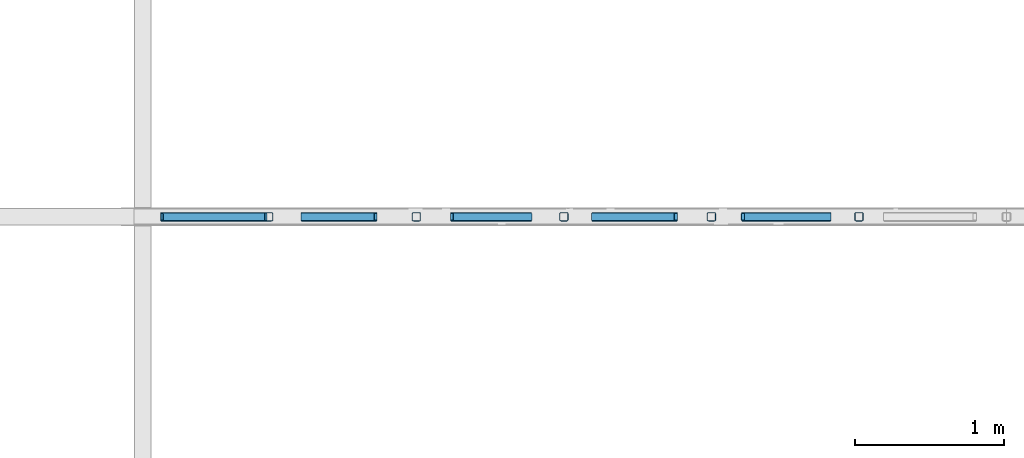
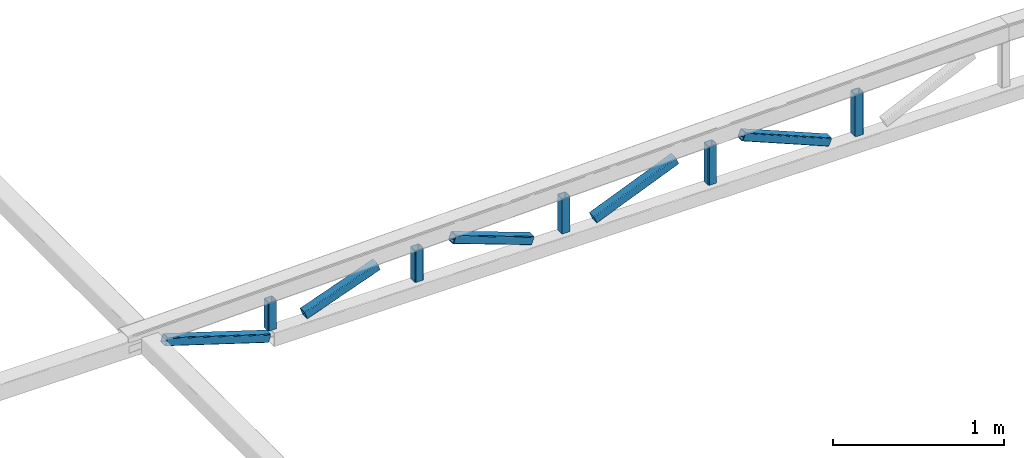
# One storey, part 6 of 10: 10 members, 1 element without a shape of its own.
"""IFC2X3 building model written with IfcOpenShell, lengths in millimetres."""

from ifc_helpers import new_model, entity, si_unit, converted_unit, derived_unit, direction, frame, frame_2d, origin, place, context, subcontext, project, spatial, polyline, circle_curve, parameter, trimmed, segment, composite_curve, outline, extrude, source, transform, mapped, type_object, type_shapes, element, aggregate, save


model = new_model("IFC2X3")

# Units and contexts
model_context = context("Model", 3, precision=0.01, world=origin(), true_north=direction((6.12303176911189e-17, 1.0)))
body_context = subcontext(model_context, "Body", "Model", "MODEL_VIEW")
ifc_project = project(units=[si_unit("LENGTHUNIT", "METRE", prefix="MILLI"), si_unit("AREAUNIT", "SQUARE_METRE"), si_unit("VOLUMEUNIT", "CUBIC_METRE"), converted_unit("PLANEANGLEUNIT", "DEGREE", entity("IfcRatioMeasure", 0.0174532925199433), si_unit("PLANEANGLEUNIT", "RADIAN"), dimensions=[0, 0, 0, 0, 0, 0, 0]), si_unit("MASSUNIT", "GRAM", prefix="KILO"), derived_unit("MASSDENSITYUNIT", [(si_unit("MASSUNIT", "GRAM", prefix="KILO"), 1), (si_unit("LENGTHUNIT", "METRE"), -3)]), si_unit("TIMEUNIT", "SECOND"), si_unit("FREQUENCYUNIT", "HERTZ"), si_unit("THERMODYNAMICTEMPERATUREUNIT", "DEGREE_CELSIUS"), derived_unit("THERMALTRANSMITTANCEUNIT", [(si_unit("MASSUNIT", "GRAM", prefix="KILO"), 1), (si_unit("THERMODYNAMICTEMPERATUREUNIT", "KELVIN"), -1), (si_unit("TIMEUNIT", "SECOND"), -3)]), derived_unit("VOLUMETRICFLOWRATEUNIT", [(si_unit("LENGTHUNIT", "METRE"), 3), (si_unit("TIMEUNIT", "SECOND"), -1)]), si_unit("ELECTRICCURRENTUNIT", "AMPERE"), si_unit("ELECTRICVOLTAGEUNIT", "VOLT"), si_unit("POWERUNIT", "WATT"), si_unit("FORCEUNIT", "NEWTON", prefix="KILO"), si_unit("ILLUMINANCEUNIT", "LUX"), si_unit("LUMINOUSFLUXUNIT", "LUMEN"), si_unit("LUMINOUSINTENSITYUNIT", "CANDELA"), derived_unit("USERDEFINED", [(si_unit("MASSUNIT", "GRAM", prefix="KILO"), -1), (si_unit("LENGTHUNIT", "METRE"), -2), (si_unit("TIMEUNIT", "SECOND"), 3), (si_unit("LUMINOUSFLUXUNIT", "LUMEN"), 1)]), derived_unit("LINEARVELOCITYUNIT", [(si_unit("LENGTHUNIT", "METRE"), 1), (si_unit("TIMEUNIT", "SECOND"), -1)]), si_unit("PRESSUREUNIT", "PASCAL"), derived_unit("USERDEFINED", [(si_unit("LENGTHUNIT", "METRE"), -2), (si_unit("MASSUNIT", "GRAM", prefix="KILO"), 1), (si_unit("TIMEUNIT", "SECOND"), -2)])], contexts=[model_context])

# Site, building, storey
site_placement = place(None, frame((0.0, 0.0, 101000.0)))
site = spatial("IfcSite", under=ifc_project, at=site_placement, Name="Default", CompositionType="ELEMENT")
building_placement = place(site_placement, origin())
building = spatial("IfcBuilding", under=site, at=building_placement, CompositionType="ELEMENT")
storey_placement = place(building_placement, frame((0.0, 0.0, 6025.0)))
storey = spatial("IfcBuildingStorey", under=building, at=storey_placement, Name="03", CompositionType="ELEMENT", Elevation=6024.9999999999)

# Assembly, members
assembly_placement = place(storey_placement, origin())
assembly = element("IfcElementAssembly", 1, at=assembly_placement, inside=storey, Name="Gitterdrager:Standard", ObjectType="Gitterdrager:Standard", AssemblyPlace="NOTDEFINED", PredefinedType="TRUSS")
member_type_1 = type_object("IfcMemberType", Name="60x60x5", PredefinedType="BRACE")
shared_shape_1 = source(origin(), body_context, "Body", "SweptSolid", [
    extrude(outline(composite_curve([segment(trimmed(circle_curve(frame_2d((-20.0, -20.0), x_axis=(1.0, 0.0)), 10.0), [parameter(180.0)], [parameter(270.0)], True, "PARAMETER"), True, "CONTINUOUS"), segment(polyline([(-20.0, -30.0), (20.0, -30.0)]), True, "CONTINUOUS"), segment(trimmed(circle_curve(frame_2d((20.0, -20.0), x_axis=(1.0, 0.0)), 10.0), [parameter(270.0)], [parameter(5.08888749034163e-14)], True, "PARAMETER"), True, "CONTINUOUS"), segment(polyline([(30.0, -20.0), (30.0, 20.0)]), True, "CONTINUOUS"), segment(trimmed(circle_curve(frame_2d((20.0, 20.0), x_axis=(1.0, 0.0)), 10.0), [parameter(360.0)], [parameter(89.9999999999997)], True, "PARAMETER"), True, "CONTINUOUS"), segment(polyline([(20.0, 30.0), (-20.0, 30.0)]), True, "CONTINUOUS"), segment(trimmed(circle_curve(frame_2d((-20.0, 20.0), x_axis=(1.0, 0.0)), 10.0), [parameter(90.0000000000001)], [parameter(180.0)], True, "PARAMETER"), True, "CONTINUOUS"), segment(polyline([(-30.0, 20.0), (-30.0, -20.0)]), True, "CONTINUOUS")], self_intersect=False), holes=[composite_curve([segment(polyline([(20.0, -25.0), (-20.0, -25.0)]), True, "CONTINUOUS"), segment(trimmed(circle_curve(frame_2d((-20.0, -20.0), x_axis=(1.0, 0.0)), 5.0), [parameter(180.0)], [parameter(270.0)], True, "PARAMETER"), False, "CONTINUOUS"), segment(polyline([(-25.0, -20.0), (-25.0, 20.0)]), True, "CONTINUOUS"), segment(trimmed(circle_curve(frame_2d((-20.0, 20.0), x_axis=(1.0, 0.0)), 5.0), [parameter(90.0000000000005)], [parameter(180.0)], True, "PARAMETER"), False, "CONTINUOUS"), segment(polyline([(-20.0, 25.0), (20.0, 25.0)]), True, "CONTINUOUS"), segment(trimmed(circle_curve(frame_2d((20.0, 20.0), x_axis=(1.0, 0.0)), 5.0), [parameter(0.0)], [parameter(90.0000000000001)], True, "PARAMETER"), False, "CONTINUOUS"), segment(polyline([(25.0, 20.0), (25.0, -20.0)]), True, "CONTINUOUS"), segment(trimmed(circle_curve(frame_2d((20.0, -20.0), x_axis=(1.0, 0.0)), 5.0), [parameter(270.0)], [parameter(4.57999874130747e-13)], True, "PARAMETER"), False, "CONTINUOUS")], self_intersect=False)]), frame((-155.792423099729, 0.0, 0.0), z_axis=(1.0, 0.0, 0.0), x_axis=(0.0, -1.0, 0.0)), (0.0, 0.0, 1.0), 300.049419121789),
])
type_shapes(member_type_1, [shared_shape_1])
member_1_placement = place(assembly_placement, frame((16232.9311636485, 32417.9507529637, -122.531331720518), z_axis=(1.0, 0.0, 0.0), x_axis=(0.0, 0.0, 1.0)))
member_1 = element("IfcMember", 2, at=member_1_placement, type_object=member_type_1, Name="Bjelke HUP:60x60x5", ObjectType="60x60x5", context=body_context, shape_type="MappedRepresentation", body=[
    mapped(shared_shape_1, transform((0.0, 0.0, 0.0), scale=1.0)),
])
member_type_2 = type_object("IfcMemberType", Name="60x60x5", PredefinedType="BRACE")
shared_shape_2 = source(origin(), body_context, "Body", "SweptSolid", [
    extrude(outline(composite_curve([segment(trimmed(circle_curve(frame_2d((-20.0, -20.0), x_axis=(1.0, 0.0)), 10.0), [parameter(180.0)], [parameter(270.0)], True, "PARAMETER"), True, "CONTINUOUS"), segment(polyline([(-20.0, -30.0), (20.0, -30.0)]), True, "CONTINUOUS"), segment(trimmed(circle_curve(frame_2d((20.0, -20.0), x_axis=(1.0, 0.0)), 10.0), [parameter(270.0)], [parameter(5.08888749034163e-14)], True, "PARAMETER"), True, "CONTINUOUS"), segment(polyline([(30.0, -20.0), (30.0, 20.0)]), True, "CONTINUOUS"), segment(trimmed(circle_curve(frame_2d((20.0, 20.0), x_axis=(1.0, 0.0)), 10.0), [parameter(360.0)], [parameter(89.9999999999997)], True, "PARAMETER"), True, "CONTINUOUS"), segment(polyline([(20.0, 30.0), (-20.0, 30.0)]), True, "CONTINUOUS"), segment(trimmed(circle_curve(frame_2d((-20.0, 20.0), x_axis=(1.0, 0.0)), 10.0), [parameter(90.0000000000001)], [parameter(180.0)], True, "PARAMETER"), True, "CONTINUOUS"), segment(polyline([(-30.0, 20.0), (-30.0, -20.0)]), True, "CONTINUOUS")], self_intersect=False), holes=[composite_curve([segment(polyline([(20.0, -25.0), (-20.0, -25.0)]), True, "CONTINUOUS"), segment(trimmed(circle_curve(frame_2d((-20.0, -20.0), x_axis=(1.0, 0.0)), 5.0), [parameter(180.0)], [parameter(270.0)], True, "PARAMETER"), False, "CONTINUOUS"), segment(polyline([(-25.0, -20.0), (-25.0, 20.0)]), True, "CONTINUOUS"), segment(trimmed(circle_curve(frame_2d((-20.0, 20.0), x_axis=(1.0, 0.0)), 5.0), [parameter(90.0000000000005)], [parameter(180.0)], True, "PARAMETER"), False, "CONTINUOUS"), segment(polyline([(-20.0, 25.0), (20.0, 25.0)]), True, "CONTINUOUS"), segment(trimmed(circle_curve(frame_2d((20.0, 20.0), x_axis=(1.0, 0.0)), 5.0), [parameter(0.0)], [parameter(90.0000000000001)], True, "PARAMETER"), False, "CONTINUOUS"), segment(polyline([(25.0, 20.0), (25.0, -20.0)]), True, "CONTINUOUS"), segment(trimmed(circle_curve(frame_2d((20.0, -20.0), x_axis=(1.0, 0.0)), 5.0), [parameter(270.0)], [parameter(4.57999874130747e-13)], True, "PARAMETER"), False, "CONTINUOUS")], self_intersect=False)]), frame((-143.393968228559, 0.0, 0.0), z_axis=(1.0, 0.0, 0.0), x_axis=(0.0, -1.0, 0.0)), (0.0, 0.0, 1.0), 275.252509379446),
])
type_shapes(member_type_2, [shared_shape_2])
member_2_placement = place(assembly_placement, frame((15239.6002137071, 32417.9507529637, -134.929786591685), z_axis=(1.0, 0.0, 0.0), x_axis=(0.0, 0.0, 1.0)))
member_2 = element("IfcMember", 3, at=member_2_placement, type_object=member_type_2, Name="Bjelke HUP:60x60x5", ObjectType="60x60x5", context=body_context, shape_type="MappedRepresentation", body=[
    mapped(shared_shape_2, transform((0.0, 0.0, 0.0), scale=1.0)),
])
member_type_3 = type_object("IfcMemberType", Name="60x60x5", PredefinedType="BRACE")
shared_shape_3 = source(origin(), body_context, "Body", "SweptSolid", [
    extrude(outline(composite_curve([segment(trimmed(circle_curve(frame_2d((-20.0, -20.0), x_axis=(1.0, 0.0)), 10.0), [parameter(180.0)], [parameter(270.0)], True, "PARAMETER"), True, "CONTINUOUS"), segment(polyline([(-20.0, -30.0), (20.0, -30.0)]), True, "CONTINUOUS"), segment(trimmed(circle_curve(frame_2d((20.0, -20.0), x_axis=(1.0, 0.0)), 10.0), [parameter(270.0)], [parameter(5.08888749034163e-14)], True, "PARAMETER"), True, "CONTINUOUS"), segment(polyline([(30.0, -20.0), (30.0, 20.0)]), True, "CONTINUOUS"), segment(trimmed(circle_curve(frame_2d((20.0, 20.0), x_axis=(1.0, 0.0)), 10.0), [parameter(360.0)], [parameter(89.9999999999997)], True, "PARAMETER"), True, "CONTINUOUS"), segment(polyline([(20.0, 30.0), (-20.0, 30.0)]), True, "CONTINUOUS"), segment(trimmed(circle_curve(frame_2d((-20.0, 20.0), x_axis=(1.0, 0.0)), 10.0), [parameter(90.0000000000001)], [parameter(180.0)], True, "PARAMETER"), True, "CONTINUOUS"), segment(polyline([(-30.0, 20.0), (-30.0, -20.0)]), True, "CONTINUOUS")], self_intersect=False), holes=[composite_curve([segment(polyline([(20.0, -25.0), (-20.0, -25.0)]), True, "CONTINUOUS"), segment(trimmed(circle_curve(frame_2d((-20.0, -20.0), x_axis=(1.0, 0.0)), 5.0), [parameter(180.0)], [parameter(270.0)], True, "PARAMETER"), False, "CONTINUOUS"), segment(polyline([(-25.0, -20.0), (-25.0, 20.0)]), True, "CONTINUOUS"), segment(trimmed(circle_curve(frame_2d((-20.0, 20.0), x_axis=(1.0, 0.0)), 5.0), [parameter(90.0000000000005)], [parameter(180.0)], True, "PARAMETER"), False, "CONTINUOUS"), segment(polyline([(-20.0, 25.0), (20.0, 25.0)]), True, "CONTINUOUS"), segment(trimmed(circle_curve(frame_2d((20.0, 20.0), x_axis=(1.0, 0.0)), 5.0), [parameter(0.0)], [parameter(90.0000000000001)], True, "PARAMETER"), False, "CONTINUOUS"), segment(polyline([(25.0, 20.0), (25.0, -20.0)]), True, "CONTINUOUS"), segment(trimmed(circle_curve(frame_2d((20.0, -20.0), x_axis=(1.0, 0.0)), 5.0), [parameter(270.0)], [parameter(4.57999874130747e-13)], True, "PARAMETER"), False, "CONTINUOUS")], self_intersect=False)]), frame((-130.995453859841, 0.0, 0.0), z_axis=(1.0, 0.0, 0.0), x_axis=(0.0, -1.0, 0.0)), (0.0, 0.0, 1.0), 250.455480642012),
])
type_shapes(member_type_3, [shared_shape_3])
member_3_placement = place(assembly_placement, frame((14246.2644969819, 32417.9507529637, -147.328300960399), z_axis=(1.0, 0.0, 0.0), x_axis=(0.0, 0.0, 1.0)))
member_3 = element("IfcMember", 4, at=member_3_placement, type_object=member_type_3, Name="Bjelke HUP:60x60x5", ObjectType="60x60x5", context=body_context, shape_type="MappedRepresentation", body=[
    mapped(shared_shape_3, transform((0.0, 0.0, 0.0), scale=1.0)),
])
member_type_4 = type_object("IfcMemberType", Name="60x60x5", PredefinedType="BRACE")
shared_shape_4 = source(origin(), body_context, "Body", "SweptSolid", [
    extrude(outline(composite_curve([segment(trimmed(circle_curve(frame_2d((-20.0, -20.0), x_axis=(1.0, 0.0)), 10.0), [parameter(180.0)], [parameter(270.0)], True, "PARAMETER"), True, "CONTINUOUS"), segment(polyline([(-20.0, -30.0), (20.0, -30.0)]), True, "CONTINUOUS"), segment(trimmed(circle_curve(frame_2d((20.0, -20.0), x_axis=(1.0, 0.0)), 10.0), [parameter(270.0)], [parameter(5.08888749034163e-14)], True, "PARAMETER"), True, "CONTINUOUS"), segment(polyline([(30.0, -20.0), (30.0, 20.0)]), True, "CONTINUOUS"), segment(trimmed(circle_curve(frame_2d((20.0, 20.0), x_axis=(1.0, 0.0)), 10.0), [parameter(360.0)], [parameter(89.9999999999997)], True, "PARAMETER"), True, "CONTINUOUS"), segment(polyline([(20.0, 30.0), (-20.0, 30.0)]), True, "CONTINUOUS"), segment(trimmed(circle_curve(frame_2d((-20.0, 20.0), x_axis=(1.0, 0.0)), 10.0), [parameter(90.0000000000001)], [parameter(180.0)], True, "PARAMETER"), True, "CONTINUOUS"), segment(polyline([(-30.0, 20.0), (-30.0, -20.0)]), True, "CONTINUOUS")], self_intersect=False), holes=[composite_curve([segment(polyline([(20.0, -25.0), (-20.0, -25.0)]), True, "CONTINUOUS"), segment(trimmed(circle_curve(frame_2d((-20.0, -20.0), x_axis=(1.0, 0.0)), 5.0), [parameter(180.0)], [parameter(270.0)], True, "PARAMETER"), False, "CONTINUOUS"), segment(polyline([(-25.0, -20.0), (-25.0, 20.0)]), True, "CONTINUOUS"), segment(trimmed(circle_curve(frame_2d((-20.0, 20.0), x_axis=(1.0, 0.0)), 5.0), [parameter(90.0000000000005)], [parameter(180.0)], True, "PARAMETER"), False, "CONTINUOUS"), segment(polyline([(-20.0, 25.0), (20.0, 25.0)]), True, "CONTINUOUS"), segment(trimmed(circle_curve(frame_2d((20.0, 20.0), x_axis=(1.0, 0.0)), 5.0), [parameter(0.0)], [parameter(90.0000000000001)], True, "PARAMETER"), False, "CONTINUOUS"), segment(polyline([(25.0, 20.0), (25.0, -20.0)]), True, "CONTINUOUS"), segment(trimmed(circle_curve(frame_2d((20.0, -20.0), x_axis=(1.0, 0.0)), 5.0), [parameter(270.0)], [parameter(4.57999874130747e-13)], True, "PARAMETER"), False, "CONTINUOUS")], self_intersect=False)]), frame((-118.596969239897, 0.0, 0.0), z_axis=(1.0, 0.0, 0.0), x_axis=(0.0, -1.0, 0.0)), (0.0, 0.0, 1.0), 225.658511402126),
])
type_shapes(member_type_4, [shared_shape_4])
member_4_placement = place(assembly_placement, frame((13252.9311636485, 32417.9507529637, -159.726785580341), z_axis=(1.0, 0.0, 0.0), x_axis=(0.0, 0.0, 1.0)))
member_4 = element("IfcMember", 5, at=member_4_placement, type_object=member_type_4, Name="Bjelke HUP:60x60x5", ObjectType="60x60x5", context=body_context, shape_type="MappedRepresentation", body=[
    mapped(shared_shape_4, transform((0.0, 0.0, 0.0), scale=1.0)),
])
member_type_5 = type_object("IfcMemberType", Name="60x60x5", PredefinedType="BRACE")
shared_shape_5 = source(origin(), body_context, "Body", "SweptSolid", [
    extrude(outline(composite_curve([segment(trimmed(circle_curve(frame_2d((-20.0, -20.0), x_axis=(1.0, 0.0)), 10.0), [parameter(180.0)], [parameter(270.0)], True, "PARAMETER"), True, "CONTINUOUS"), segment(polyline([(-20.0, -30.0), (20.0, -30.0)]), True, "CONTINUOUS"), segment(trimmed(circle_curve(frame_2d((20.0, -20.0), x_axis=(1.0, 0.0)), 10.0), [parameter(270.0)], [parameter(5.08888749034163e-14)], True, "PARAMETER"), True, "CONTINUOUS"), segment(polyline([(30.0, -20.0), (30.0, 20.0)]), True, "CONTINUOUS"), segment(trimmed(circle_curve(frame_2d((20.0, 20.0), x_axis=(1.0, 0.0)), 10.0), [parameter(360.0)], [parameter(89.9999999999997)], True, "PARAMETER"), True, "CONTINUOUS"), segment(polyline([(20.0, 30.0), (-20.0, 30.0)]), True, "CONTINUOUS"), segment(trimmed(circle_curve(frame_2d((-20.0, 20.0), x_axis=(1.0, 0.0)), 10.0), [parameter(90.0000000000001)], [parameter(180.0)], True, "PARAMETER"), True, "CONTINUOUS"), segment(polyline([(-30.0, 20.0), (-30.0, -20.0)]), True, "CONTINUOUS")], self_intersect=False), holes=[composite_curve([segment(polyline([(20.0, -25.0), (-20.0, -25.0)]), True, "CONTINUOUS"), segment(trimmed(circle_curve(frame_2d((-20.0, -20.0), x_axis=(1.0, 0.0)), 5.0), [parameter(180.0)], [parameter(270.0)], True, "PARAMETER"), False, "CONTINUOUS"), segment(polyline([(-25.0, -20.0), (-25.0, 20.0)]), True, "CONTINUOUS"), segment(trimmed(circle_curve(frame_2d((-20.0, 20.0), x_axis=(1.0, 0.0)), 5.0), [parameter(90.0000000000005)], [parameter(180.0)], True, "PARAMETER"), False, "CONTINUOUS"), segment(polyline([(-20.0, 25.0), (20.0, 25.0)]), True, "CONTINUOUS"), segment(trimmed(circle_curve(frame_2d((20.0, 20.0), x_axis=(1.0, 0.0)), 5.0), [parameter(0.0)], [parameter(90.0000000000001)], True, "PARAMETER"), False, "CONTINUOUS"), segment(polyline([(25.0, 20.0), (25.0, -20.0)]), True, "CONTINUOUS"), segment(trimmed(circle_curve(frame_2d((20.0, -20.0), x_axis=(1.0, 0.0)), 5.0), [parameter(270.0)], [parameter(4.57999874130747e-13)], True, "PARAMETER"), False, "CONTINUOUS")], self_intersect=False)]), frame((-106.198484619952, 0.0, 0.0), z_axis=(1.0, 0.0, 0.0), x_axis=(0.0, -1.0, 0.0)), (0.0, 0.0, 1.0), 200.861542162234),
])
type_shapes(member_type_5, [shared_shape_5])
member_5_placement = place(assembly_placement, frame((12259.5978303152, 32417.9507529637, -172.12527020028), z_axis=(1.0, 0.0, 0.0), x_axis=(0.0, 0.0, 1.0)))
member_5 = element("IfcMember", 6, at=member_5_placement, type_object=member_type_5, Name="Bjelke HUP:60x60x5", ObjectType="60x60x5", context=body_context, shape_type="MappedRepresentation", body=[
    mapped(shared_shape_5, transform((0.0, 0.0, 0.0), scale=1.0)),
])
member_type_6 = type_object("IfcMemberType", Name="60x60x5", PredefinedType="BRACE")
shared_shape_6 = source(origin(), body_context, "Body", "SweptSolid", [
    extrude(outline(composite_curve([segment(trimmed(circle_curve(frame_2d((-20.0, -20.0), x_axis=(1.0, 0.0)), 10.0), [parameter(180.0)], [parameter(270.0)], True, "PARAMETER"), True, "CONTINUOUS"), segment(polyline([(-20.0, -30.0), (20.0, -30.0)]), True, "CONTINUOUS"), segment(trimmed(circle_curve(frame_2d((20.0, -20.0), x_axis=(1.0, 0.0)), 10.0), [parameter(270.0)], [parameter(5.08888749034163e-14)], True, "PARAMETER"), True, "CONTINUOUS"), segment(polyline([(30.0, -20.0), (30.0, 20.0)]), True, "CONTINUOUS"), segment(trimmed(circle_curve(frame_2d((20.0, 20.0), x_axis=(1.0, 0.0)), 10.0), [parameter(360.0)], [parameter(89.9999999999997)], True, "PARAMETER"), True, "CONTINUOUS"), segment(polyline([(20.0, 30.0), (-20.0, 30.0)]), True, "CONTINUOUS"), segment(trimmed(circle_curve(frame_2d((-20.0, 20.0), x_axis=(1.0, 0.0)), 10.0), [parameter(90.0000000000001)], [parameter(180.0)], True, "PARAMETER"), True, "CONTINUOUS"), segment(polyline([(-30.0, 20.0), (-30.0, -20.0)]), True, "CONTINUOUS")], self_intersect=False), holes=[composite_curve([segment(polyline([(20.0, -25.0), (-20.0, -25.0)]), True, "CONTINUOUS"), segment(trimmed(circle_curve(frame_2d((-20.0, -20.0), x_axis=(1.0, 0.0)), 5.0), [parameter(180.0)], [parameter(270.0)], True, "PARAMETER"), False, "CONTINUOUS"), segment(polyline([(-25.0, -20.0), (-25.0, 20.0)]), True, "CONTINUOUS"), segment(trimmed(circle_curve(frame_2d((-20.0, 20.0), x_axis=(1.0, 0.0)), 5.0), [parameter(90.0000000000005)], [parameter(180.0)], True, "PARAMETER"), False, "CONTINUOUS"), segment(polyline([(-20.0, 25.0), (20.0, 25.0)]), True, "CONTINUOUS"), segment(trimmed(circle_curve(frame_2d((20.0, 20.0), x_axis=(1.0, 0.0)), 5.0), [parameter(0.0)], [parameter(90.0000000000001)], True, "PARAMETER"), False, "CONTINUOUS"), segment(polyline([(25.0, 20.0), (25.0, -20.0)]), True, "CONTINUOUS"), segment(trimmed(circle_curve(frame_2d((20.0, -20.0), x_axis=(1.0, 0.0)), 5.0), [parameter(270.0)], [parameter(4.57999874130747e-13)], True, "PARAMETER"), False, "CONTINUOUS")], self_intersect=False)]), frame((-322.27532019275, 0.0, 0.0), z_axis=(1.0, 0.0, 0.0), x_axis=(0.0, -1.0, 0.0)), (0.0, 0.0, 1.0), 600.830243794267),
])
type_shapes(member_type_6, [shared_shape_6])
member_6_placement = place(assembly_placement, frame((14742.9323553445, 32417.9507529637, -134.929786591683), z_axis=(0.383266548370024, 0.0, -0.923637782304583), x_axis=(0.923637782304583, 0.0, 0.383266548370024)))
member_6 = element("IfcMember", 7, at=member_6_placement, type_object=member_type_6, Name="Bjelke HUP:60x60x5", ObjectType="60x60x5", context=body_context, shape_type="MappedRepresentation", body=[
    mapped(shared_shape_6, transform((0.0, 0.0, 0.0), scale=1.0)),
])
member_type_7 = type_object("IfcMemberType", Name="60x60x5", PredefinedType="BRACE")
shared_shape_7 = source(origin(), body_context, "Body", "SweptSolid", [
    extrude(outline(composite_curve([segment(trimmed(circle_curve(frame_2d((-20.0, -20.0), x_axis=(1.0, 0.0)), 10.0), [parameter(180.0)], [parameter(270.0)], True, "PARAMETER"), True, "CONTINUOUS"), segment(polyline([(-20.0, -30.0), (20.0, -30.0)]), True, "CONTINUOUS"), segment(trimmed(circle_curve(frame_2d((20.0, -20.0), x_axis=(1.0, 0.0)), 10.0), [parameter(270.0)], [parameter(5.08888749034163e-14)], True, "PARAMETER"), True, "CONTINUOUS"), segment(polyline([(30.0, -20.0), (30.0, 20.0)]), True, "CONTINUOUS"), segment(trimmed(circle_curve(frame_2d((20.0, 20.0), x_axis=(1.0, 0.0)), 10.0), [parameter(360.0)], [parameter(89.9999999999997)], True, "PARAMETER"), True, "CONTINUOUS"), segment(polyline([(20.0, 30.0), (-20.0, 30.0)]), True, "CONTINUOUS"), segment(trimmed(circle_curve(frame_2d((-20.0, 20.0), x_axis=(1.0, 0.0)), 10.0), [parameter(90.0000000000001)], [parameter(180.0)], True, "PARAMETER"), True, "CONTINUOUS"), segment(polyline([(-30.0, 20.0), (-30.0, -20.0)]), True, "CONTINUOUS")], self_intersect=False), holes=[composite_curve([segment(polyline([(20.0, -25.0), (-20.0, -25.0)]), True, "CONTINUOUS"), segment(trimmed(circle_curve(frame_2d((-20.0, -20.0), x_axis=(1.0, 0.0)), 5.0), [parameter(180.0)], [parameter(270.0)], True, "PARAMETER"), False, "CONTINUOUS"), segment(polyline([(-25.0, -20.0), (-25.0, 20.0)]), True, "CONTINUOUS"), segment(trimmed(circle_curve(frame_2d((-20.0, 20.0), x_axis=(1.0, 0.0)), 5.0), [parameter(90.0000000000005)], [parameter(180.0)], True, "PARAMETER"), False, "CONTINUOUS"), segment(polyline([(-20.0, 25.0), (20.0, 25.0)]), True, "CONTINUOUS"), segment(trimmed(circle_curve(frame_2d((20.0, 20.0), x_axis=(1.0, 0.0)), 5.0), [parameter(0.0)], [parameter(90.0000000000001)], True, "PARAMETER"), False, "CONTINUOUS"), segment(polyline([(25.0, 20.0), (25.0, -20.0)]), True, "CONTINUOUS"), segment(trimmed(circle_curve(frame_2d((20.0, -20.0), x_axis=(1.0, 0.0)), 5.0), [parameter(270.0)], [parameter(4.57999874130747e-13)], True, "PARAMETER"), False, "CONTINUOUS")], self_intersect=False)]), frame((-307.939240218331, 0.0, 0.0), z_axis=(1.0, 0.0, 0.0), x_axis=(0.0, -1.0, 0.0)), (0.0, 0.0, 1.0), 630.213240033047),
])
type_shapes(member_type_7, [shared_shape_7])
member_7_placement = place(assembly_placement, frame((15736.2656886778, 32417.9507529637, -134.929786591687), z_axis=(-0.383268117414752, 0.0, -0.923637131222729), x_axis=(0.923637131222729, 0.0, -0.383268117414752)))
member_7 = element("IfcMember", 8, at=member_7_placement, type_object=member_type_7, Name="Bjelke HUP:60x60x5", ObjectType="60x60x5", context=body_context, shape_type="MappedRepresentation", body=[
    mapped(shared_shape_7, transform((0.0, 0.0, 0.0), scale=1.0)),
])
member_type_8 = type_object("IfcMemberType", Name="60x60x5", PredefinedType="BRACE")
shared_shape_8 = source(origin(), body_context, "Body", "SweptSolid", [
    extrude(outline(composite_curve([segment(trimmed(circle_curve(frame_2d((-20.0, -20.0), x_axis=(1.0, 0.0)), 10.0), [parameter(180.0)], [parameter(270.0)], True, "PARAMETER"), True, "CONTINUOUS"), segment(polyline([(-20.0, -30.0), (20.0, -30.0)]), True, "CONTINUOUS"), segment(trimmed(circle_curve(frame_2d((20.0, -20.0), x_axis=(1.0, 0.0)), 10.0), [parameter(270.0)], [parameter(5.08888749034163e-14)], True, "PARAMETER"), True, "CONTINUOUS"), segment(polyline([(30.0, -20.0), (30.0, 20.0)]), True, "CONTINUOUS"), segment(trimmed(circle_curve(frame_2d((20.0, 20.0), x_axis=(1.0, 0.0)), 10.0), [parameter(360.0)], [parameter(89.9999999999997)], True, "PARAMETER"), True, "CONTINUOUS"), segment(polyline([(20.0, 30.0), (-20.0, 30.0)]), True, "CONTINUOUS"), segment(trimmed(circle_curve(frame_2d((-20.0, 20.0), x_axis=(1.0, 0.0)), 10.0), [parameter(90.0000000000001)], [parameter(180.0)], True, "PARAMETER"), True, "CONTINUOUS"), segment(polyline([(-30.0, 20.0), (-30.0, -20.0)]), True, "CONTINUOUS")], self_intersect=False), holes=[composite_curve([segment(polyline([(20.0, -25.0), (-20.0, -25.0)]), True, "CONTINUOUS"), segment(trimmed(circle_curve(frame_2d((-20.0, -20.0), x_axis=(1.0, 0.0)), 5.0), [parameter(180.0)], [parameter(270.0)], True, "PARAMETER"), False, "CONTINUOUS"), segment(polyline([(-25.0, -20.0), (-25.0, 20.0)]), True, "CONTINUOUS"), segment(trimmed(circle_curve(frame_2d((-20.0, 20.0), x_axis=(1.0, 0.0)), 5.0), [parameter(90.0000000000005)], [parameter(180.0)], True, "PARAMETER"), False, "CONTINUOUS"), segment(polyline([(-20.0, 25.0), (20.0, 25.0)]), True, "CONTINUOUS"), segment(trimmed(circle_curve(frame_2d((20.0, 20.0), x_axis=(1.0, 0.0)), 5.0), [parameter(0.0)], [parameter(90.0000000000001)], True, "PARAMETER"), False, "CONTINUOUS"), segment(polyline([(25.0, 20.0), (25.0, -20.0)]), True, "CONTINUOUS"), segment(trimmed(circle_curve(frame_2d((20.0, -20.0), x_axis=(1.0, 0.0)), 5.0), [parameter(270.0)], [parameter(4.57999874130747e-13)], True, "PARAMETER"), False, "CONTINUOUS")], self_intersect=False)]), frame((-273.871385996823, 0.0, 0.0), z_axis=(1.0, 0.0, 0.0), x_axis=(0.0, -1.0, 0.0)), (0.0, 0.0, 1.0), 561.89082896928),
])
type_shapes(member_type_8, [shared_shape_8])
member_8_placement = place(assembly_placement, frame((13749.5978303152, 32417.9507529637, -159.726785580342), z_axis=(-0.342896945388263, 0.0, -0.939373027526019), x_axis=(0.939373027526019, 0.0, -0.342896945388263)))
member_8 = element("IfcMember", 9, at=member_8_placement, type_object=member_type_8, Name="Bjelke HUP:60x60x5", ObjectType="60x60x5", context=body_context, shape_type="MappedRepresentation", body=[
    mapped(shared_shape_8, transform((0.0, 0.0, 0.0), scale=1.0)),
])
member_type_9 = type_object("IfcMemberType", Name="60x60x5", PredefinedType="BRACE")
shared_shape_9 = source(origin(), body_context, "Body", "SweptSolid", [
    extrude(outline(composite_curve([segment(trimmed(circle_curve(frame_2d((-20.0, -20.0), x_axis=(1.0, 0.0)), 10.0), [parameter(180.0)], [parameter(270.0)], True, "PARAMETER"), True, "CONTINUOUS"), segment(polyline([(-20.0, -30.0), (20.0, -30.0)]), True, "CONTINUOUS"), segment(trimmed(circle_curve(frame_2d((20.0, -20.0), x_axis=(1.0, 0.0)), 10.0), [parameter(270.0)], [parameter(5.08888749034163e-14)], True, "PARAMETER"), True, "CONTINUOUS"), segment(polyline([(30.0, -20.0), (30.0, 20.0)]), True, "CONTINUOUS"), segment(trimmed(circle_curve(frame_2d((20.0, 20.0), x_axis=(1.0, 0.0)), 10.0), [parameter(360.0)], [parameter(89.9999999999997)], True, "PARAMETER"), True, "CONTINUOUS"), segment(polyline([(20.0, 30.0), (-20.0, 30.0)]), True, "CONTINUOUS"), segment(trimmed(circle_curve(frame_2d((-20.0, 20.0), x_axis=(1.0, 0.0)), 10.0), [parameter(90.0000000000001)], [parameter(180.0)], True, "PARAMETER"), True, "CONTINUOUS"), segment(polyline([(-30.0, 20.0), (-30.0, -20.0)]), True, "CONTINUOUS")], self_intersect=False), holes=[composite_curve([segment(polyline([(20.0, -25.0), (-20.0, -25.0)]), True, "CONTINUOUS"), segment(trimmed(circle_curve(frame_2d((-20.0, -20.0), x_axis=(1.0, 0.0)), 5.0), [parameter(180.0)], [parameter(270.0)], True, "PARAMETER"), False, "CONTINUOUS"), segment(polyline([(-25.0, -20.0), (-25.0, 20.0)]), True, "CONTINUOUS"), segment(trimmed(circle_curve(frame_2d((-20.0, 20.0), x_axis=(1.0, 0.0)), 5.0), [parameter(90.0000000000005)], [parameter(180.0)], True, "PARAMETER"), False, "CONTINUOUS"), segment(polyline([(-20.0, 25.0), (20.0, 25.0)]), True, "CONTINUOUS"), segment(trimmed(circle_curve(frame_2d((20.0, 20.0), x_axis=(1.0, 0.0)), 5.0), [parameter(0.0)], [parameter(90.0000000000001)], True, "PARAMETER"), False, "CONTINUOUS"), segment(polyline([(25.0, 20.0), (25.0, -20.0)]), True, "CONTINUOUS"), segment(trimmed(circle_curve(frame_2d((20.0, -20.0), x_axis=(1.0, 0.0)), 5.0), [parameter(270.0)], [parameter(4.57999874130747e-13)], True, "PARAMETER"), False, "CONTINUOUS")], self_intersect=False)]), frame((-288.01944297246, 0.0, 0.0), z_axis=(1.0, 0.0, 0.0), x_axis=(0.0, -1.0, 0.0)), (0.0, 0.0, 1.0), 524.731615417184),
])
type_shapes(member_type_9, [shared_shape_9])
member_9_placement = place(assembly_placement, frame((12756.2644969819, 32417.9507529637, -159.726785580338), z_axis=(0.342896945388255, 0.0, -0.939373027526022), x_axis=(0.939373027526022, 0.0, 0.342896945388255)))
member_9 = element("IfcMember", 10, at=member_9_placement, type_object=member_type_9, Name="Bjelke HUP:60x60x5", ObjectType="60x60x5", context=body_context, shape_type="MappedRepresentation", body=[
    mapped(shared_shape_9, transform((0.0, 0.0, 0.0), scale=1.0)),
])
member_type_10 = type_object("IfcMemberType", Name="60x60x5", PredefinedType="BRACE")
shared_shape_10 = source(origin(), body_context, "Body", "SweptSolid", [
    extrude(outline(composite_curve([segment(trimmed(circle_curve(frame_2d((-20.0, -20.0), x_axis=(1.0, 0.0)), 10.0), [parameter(180.0)], [parameter(270.0)], True, "PARAMETER"), True, "CONTINUOUS"), segment(polyline([(-20.0, -30.0), (20.0, -30.0)]), True, "CONTINUOUS"), segment(trimmed(circle_curve(frame_2d((20.0, -20.0), x_axis=(1.0, 0.0)), 10.0), [parameter(270.0)], [parameter(5.08888749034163e-14)], True, "PARAMETER"), True, "CONTINUOUS"), segment(polyline([(30.0, -20.0), (30.0, 20.0)]), True, "CONTINUOUS"), segment(trimmed(circle_curve(frame_2d((20.0, 20.0), x_axis=(1.0, 0.0)), 10.0), [parameter(360.0)], [parameter(89.9999999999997)], True, "PARAMETER"), True, "CONTINUOUS"), segment(polyline([(20.0, 30.0), (-20.0, 30.0)]), True, "CONTINUOUS"), segment(trimmed(circle_curve(frame_2d((-20.0, 20.0), x_axis=(1.0, 0.0)), 10.0), [parameter(90.0000000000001)], [parameter(180.0)], True, "PARAMETER"), True, "CONTINUOUS"), segment(polyline([(-30.0, 20.0), (-30.0, -20.0)]), True, "CONTINUOUS")], self_intersect=False), holes=[composite_curve([segment(polyline([(20.0, -25.0), (-20.0, -25.0)]), True, "CONTINUOUS"), segment(trimmed(circle_curve(frame_2d((-20.0, -20.0), x_axis=(1.0, 0.0)), 5.0), [parameter(180.0)], [parameter(270.0)], True, "PARAMETER"), False, "CONTINUOUS"), segment(polyline([(-25.0, -20.0), (-25.0, 20.0)]), True, "CONTINUOUS"), segment(trimmed(circle_curve(frame_2d((-20.0, 20.0), x_axis=(1.0, 0.0)), 5.0), [parameter(90.0000000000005)], [parameter(180.0)], True, "PARAMETER"), False, "CONTINUOUS"), segment(polyline([(-20.0, 25.0), (20.0, 25.0)]), True, "CONTINUOUS"), segment(trimmed(circle_curve(frame_2d((20.0, 20.0), x_axis=(1.0, 0.0)), 5.0), [parameter(0.0)], [parameter(90.0000000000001)], True, "PARAMETER"), False, "CONTINUOUS"), segment(polyline([(25.0, 20.0), (25.0, -20.0)]), True, "CONTINUOUS"), segment(trimmed(circle_curve(frame_2d((20.0, -20.0), x_axis=(1.0, 0.0)), 5.0), [parameter(270.0)], [parameter(4.57999874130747e-13)], True, "PARAMETER"), False, "CONTINUOUS")], self_intersect=False)]), frame((-233.100976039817, 0.0, 0.0), z_axis=(1.0, 0.0, 0.0), x_axis=(0.0, -1.0, 0.0)), (0.0, 0.0, 1.0), 731.687840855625),
])
type_shapes(member_type_10, [shared_shape_10])
member_10_placement = place(assembly_placement, frame((11762.9311636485, 32417.9507529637, -184.523754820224), z_axis=(-0.300533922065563, 0.0, -0.95377112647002), x_axis=(0.95377112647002, 0.0, -0.300533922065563)))
member_10 = element("IfcMember", 11, at=member_10_placement, type_object=member_type_10, Name="Bjelke HUP:60x60x5", ObjectType="60x60x5", context=body_context, shape_type="MappedRepresentation", body=[
    mapped(shared_shape_10, transform((0.0, 0.0, 0.0), scale=1.0)),
])
aggregate(assembly, [member_1, member_2, member_3, member_4, member_5, member_6, member_7, member_8, member_9, member_10])

save(model, "model.ifc")
